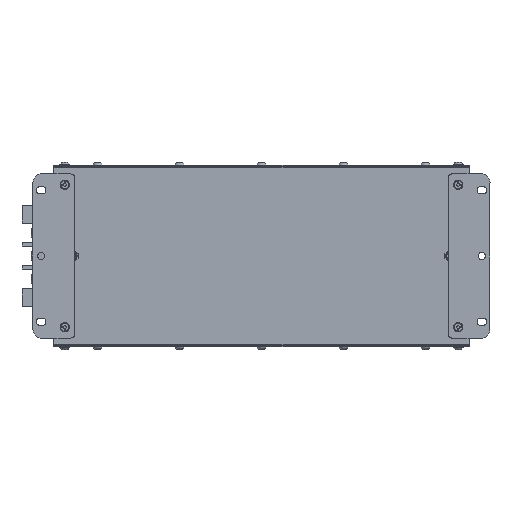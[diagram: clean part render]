
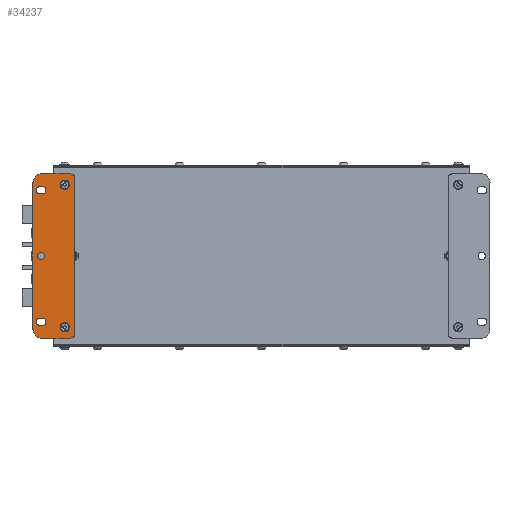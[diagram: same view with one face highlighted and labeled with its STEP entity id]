
A CAD part, front view. The second image highlights one B-rep face of the part: STEP entity #34237.
In plain terms, the highlighted planar face has unit normal (0, -1, 0).
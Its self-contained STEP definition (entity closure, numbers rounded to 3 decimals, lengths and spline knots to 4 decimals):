
#1693=FACE_BOUND('',#6246,.T.);
#1694=FACE_BOUND('',#6247,.T.);
#1695=FACE_BOUND('',#6248,.T.);
#1696=FACE_BOUND('',#6249,.T.);
#1697=FACE_BOUND('',#6250,.T.);
#2278=CIRCLE('',#36402,0.1673);
#2279=CIRCLE('',#36404,0.315);
#2280=CIRCLE('',#36405,0.315);
#2281=CIRCLE('',#36406,0.1575);
#2282=CIRCLE('',#36407,0.1575);
#2283=CIRCLE('',#36408,0.1673);
#2284=CIRCLE('',#36409,0.1299);
#2285=CIRCLE('',#36410,0.1299);
#2286=CIRCLE('',#36411,0.1299);
#2287=CIRCLE('',#36412,0.1299);
#2288=CIRCLE('',#36413,0.1299);
#4329=FACE_OUTER_BOUND('',#6245,.T.);
#6245=EDGE_LOOP('',(#23762,#23763,#23764,#23765,#23766,#23767,#23768,#23769));
#6246=EDGE_LOOP('',(#23770));
#6247=EDGE_LOOP('',(#23771));
#6248=EDGE_LOOP('',(#23772,#23773,#23774,#23775));
#6249=EDGE_LOOP('',(#23776,#23777,#23778,#23779));
#6250=EDGE_LOOP('',(#23780));
#8609=LINE('',#50723,#11581);
#8610=LINE('',#50727,#11582);
#8611=LINE('',#50731,#11583);
#8612=LINE('',#50734,#11584);
#8613=LINE('',#50741,#11585);
#8614=LINE('',#50745,#11586);
#8615=LINE('',#50749,#11587);
#8616=LINE('',#50753,#11588);
#11581=VECTOR('',#40684,0.3937);
#11582=VECTOR('',#40687,0.3937);
#11583=VECTOR('',#40690,0.3937);
#11584=VECTOR('',#40693,0.3937);
#11585=VECTOR('',#40698,0.3937);
#11586=VECTOR('',#40701,0.3937);
#11587=VECTOR('',#40704,0.3937);
#11588=VECTOR('',#40707,0.3937);
#14655=VERTEX_POINT('',#50715);
#14656=VERTEX_POINT('',#50719);
#14657=VERTEX_POINT('',#50720);
#14658=VERTEX_POINT('',#50722);
#14659=VERTEX_POINT('',#50724);
#14660=VERTEX_POINT('',#50726);
#14661=VERTEX_POINT('',#50728);
#14662=VERTEX_POINT('',#50730);
#14663=VERTEX_POINT('',#50732);
#14664=VERTEX_POINT('',#50735);
#14665=VERTEX_POINT('',#50737);
#14666=VERTEX_POINT('',#50739);
#14667=VERTEX_POINT('',#50740);
#14668=VERTEX_POINT('',#50742);
#14669=VERTEX_POINT('',#50744);
#14670=VERTEX_POINT('',#50747);
#14671=VERTEX_POINT('',#50748);
#14672=VERTEX_POINT('',#50750);
#14673=VERTEX_POINT('',#50752);
#18168=EDGE_CURVE('',#14655,#14655,#2278,.T.);
#18170=EDGE_CURVE('',#14656,#14657,#2279,.T.);
#18171=EDGE_CURVE('',#14657,#14658,#8609,.T.);
#18172=EDGE_CURVE('',#14658,#14659,#2280,.T.);
#18173=EDGE_CURVE('',#14659,#14660,#8610,.T.);
#18174=EDGE_CURVE('',#14660,#14661,#2281,.T.);
#18175=EDGE_CURVE('',#14661,#14662,#8611,.T.);
#18176=EDGE_CURVE('',#14662,#14663,#2282,.T.);
#18177=EDGE_CURVE('',#14663,#14656,#8612,.T.);
#18178=EDGE_CURVE('',#14664,#14664,#2283,.T.);
#18179=EDGE_CURVE('',#14665,#14665,#2284,.T.);
#18180=EDGE_CURVE('',#14666,#14667,#8613,.T.);
#18181=EDGE_CURVE('',#14667,#14668,#2285,.T.);
#18182=EDGE_CURVE('',#14668,#14669,#8614,.T.);
#18183=EDGE_CURVE('',#14669,#14666,#2286,.T.);
#18184=EDGE_CURVE('',#14670,#14671,#8615,.T.);
#18185=EDGE_CURVE('',#14671,#14672,#2287,.T.);
#18186=EDGE_CURVE('',#14672,#14673,#8616,.T.);
#18187=EDGE_CURVE('',#14673,#14670,#2288,.T.);
#23762=ORIENTED_EDGE('',*,*,#18170,.T.);
#23763=ORIENTED_EDGE('',*,*,#18171,.T.);
#23764=ORIENTED_EDGE('',*,*,#18172,.T.);
#23765=ORIENTED_EDGE('',*,*,#18173,.T.);
#23766=ORIENTED_EDGE('',*,*,#18174,.T.);
#23767=ORIENTED_EDGE('',*,*,#18175,.T.);
#23768=ORIENTED_EDGE('',*,*,#18176,.T.);
#23769=ORIENTED_EDGE('',*,*,#18177,.T.);
#23770=ORIENTED_EDGE('',*,*,#18178,.F.);
#23771=ORIENTED_EDGE('',*,*,#18179,.T.);
#23772=ORIENTED_EDGE('',*,*,#18180,.T.);
#23773=ORIENTED_EDGE('',*,*,#18181,.T.);
#23774=ORIENTED_EDGE('',*,*,#18182,.T.);
#23775=ORIENTED_EDGE('',*,*,#18183,.T.);
#23776=ORIENTED_EDGE('',*,*,#18184,.T.);
#23777=ORIENTED_EDGE('',*,*,#18185,.T.);
#23778=ORIENTED_EDGE('',*,*,#18186,.T.);
#23779=ORIENTED_EDGE('',*,*,#18187,.T.);
#23780=ORIENTED_EDGE('',*,*,#18168,.F.);
#33073=PLANE('',#36403);
#34237=ADVANCED_FACE('',(#4329,#1693,#1694,#1695,#1696,#1697),#33073,.T.);
#36402=AXIS2_PLACEMENT_3D('',#50716,#40677,#40678);
#36403=AXIS2_PLACEMENT_3D('',#50718,#40680,#40681);
#36404=AXIS2_PLACEMENT_3D('',#50721,#40682,#40683);
#36405=AXIS2_PLACEMENT_3D('',#50725,#40685,#40686);
#36406=AXIS2_PLACEMENT_3D('',#50729,#40688,#40689);
#36407=AXIS2_PLACEMENT_3D('',#50733,#40691,#40692);
#36408=AXIS2_PLACEMENT_3D('',#50736,#40694,#40695);
#36409=AXIS2_PLACEMENT_3D('',#50738,#40696,#40697);
#36410=AXIS2_PLACEMENT_3D('',#50743,#40699,#40700);
#36411=AXIS2_PLACEMENT_3D('',#50746,#40702,#40703);
#36412=AXIS2_PLACEMENT_3D('',#50751,#40705,#40706);
#36413=AXIS2_PLACEMENT_3D('',#50754,#40708,#40709);
#40677=DIRECTION('center_axis',(0.,-1.,0.));
#40678=DIRECTION('ref_axis',(0.,0.,-1.));
#40680=DIRECTION('center_axis',(0.,-1.,0.));
#40681=DIRECTION('ref_axis',(-1.,0.,0.));
#40682=DIRECTION('center_axis',(0.,-1.,0.));
#40683=DIRECTION('ref_axis',(0.,0.,1.));
#40684=DIRECTION('',(0.,0.,-1.));
#40685=DIRECTION('center_axis',(0.,-1.,0.));
#40686=DIRECTION('ref_axis',(-1.,0.,0.));
#40687=DIRECTION('',(1.,0.,0.));
#40688=DIRECTION('center_axis',(0.,-1.,0.));
#40689=DIRECTION('ref_axis',(0.,0.,-1.));
#40690=DIRECTION('',(0.,0.,1.));
#40691=DIRECTION('center_axis',(0.,-1.,0.));
#40692=DIRECTION('ref_axis',(1.,0.,0.));
#40693=DIRECTION('',(-1.,0.,0.));
#40694=DIRECTION('center_axis',(0.,-1.,0.));
#40695=DIRECTION('ref_axis',(0.,0.,-1.));
#40696=DIRECTION('center_axis',(0.,1.,0.));
#40697=DIRECTION('ref_axis',(0.,0.,-1.));
#40698=DIRECTION('',(1.,0.,0.));
#40699=DIRECTION('center_axis',(0.,1.,0.));
#40700=DIRECTION('ref_axis',(0.,0.,1.));
#40701=DIRECTION('',(-1.,0.,0.));
#40702=DIRECTION('center_axis',(0.,1.,0.));
#40703=DIRECTION('ref_axis',(0.,0.,-1.));
#40704=DIRECTION('',(1.,0.,0.));
#40705=DIRECTION('center_axis',(0.,1.,0.));
#40706=DIRECTION('ref_axis',(0.,0.,1.));
#40707=DIRECTION('',(-1.,0.,0.));
#40708=DIRECTION('center_axis',(0.,1.,0.));
#40709=DIRECTION('ref_axis',(0.,0.,-1.));
#50715=CARTESIAN_POINT('',(1.136,-0.1339,-1.4559));
#50716=CARTESIAN_POINT('Origin',(1.136,-0.1339,-1.6232));
#50718=CARTESIAN_POINT('Origin',(0.7423,-0.1339,-4.1823));
#50719=CARTESIAN_POINT('',(0.3092,-0.1339,-1.2295));
#50720=CARTESIAN_POINT('',(-0.0058,-0.1339,-1.5445));
#50721=CARTESIAN_POINT('Origin',(0.3092,-0.1339,-1.5445));
#50722=CARTESIAN_POINT('',(-0.0058,-0.1339,-6.8201));
#50723=CARTESIAN_POINT('',(-0.0058,-0.1339,-1.5445));
#50724=CARTESIAN_POINT('',(0.3092,-0.1339,-7.1351));
#50725=CARTESIAN_POINT('Origin',(0.3092,-0.1339,-6.8201));
#50726=CARTESIAN_POINT('',(1.3328,-0.1339,-7.1351));
#50727=CARTESIAN_POINT('',(0.3092,-0.1339,-7.1351));
#50728=CARTESIAN_POINT('',(1.4903,-0.1339,-6.9776));
#50729=CARTESIAN_POINT('Origin',(1.3328,-0.1339,-6.9776));
#50730=CARTESIAN_POINT('',(1.4903,-0.1339,-1.387));
#50731=CARTESIAN_POINT('',(1.4903,-0.1339,-6.9776));
#50732=CARTESIAN_POINT('',(1.3328,-0.1339,-1.2295));
#50733=CARTESIAN_POINT('Origin',(1.3328,-0.1339,-1.387));
#50734=CARTESIAN_POINT('',(1.3328,-0.1339,-1.2295));
#50735=CARTESIAN_POINT('',(1.136,-0.1339,-6.574));
#50736=CARTESIAN_POINT('Origin',(1.136,-0.1339,-6.7414));
#50737=CARTESIAN_POINT('',(0.2895,-0.1339,-4.0524));
#50738=CARTESIAN_POINT('Origin',(0.2895,-0.1339,-4.1823));
#50739=CARTESIAN_POINT('',(0.2501,-0.1339,-1.6902));
#50740=CARTESIAN_POINT('',(0.3289,-0.1339,-1.6902));
#50741=CARTESIAN_POINT('',(0.2501,-0.1339,-1.6902));
#50742=CARTESIAN_POINT('',(0.3289,-0.1339,-1.95));
#50743=CARTESIAN_POINT('Origin',(0.3289,-0.1339,-1.8201));
#50744=CARTESIAN_POINT('',(0.2501,-0.1339,-1.95));
#50745=CARTESIAN_POINT('',(0.3289,-0.1339,-1.95));
#50746=CARTESIAN_POINT('Origin',(0.2501,-0.1339,-1.8201));
#50747=CARTESIAN_POINT('',(0.2501,-0.1339,-6.4146));
#50748=CARTESIAN_POINT('',(0.3289,-0.1339,-6.4146));
#50749=CARTESIAN_POINT('',(0.2501,-0.1339,-6.4146));
#50750=CARTESIAN_POINT('',(0.3289,-0.1339,-6.6744));
#50751=CARTESIAN_POINT('Origin',(0.3289,-0.1339,-6.5445));
#50752=CARTESIAN_POINT('',(0.2501,-0.1339,-6.6744));
#50753=CARTESIAN_POINT('',(0.3289,-0.1339,-6.6744));
#50754=CARTESIAN_POINT('Origin',(0.2501,-0.1339,-6.5445));
